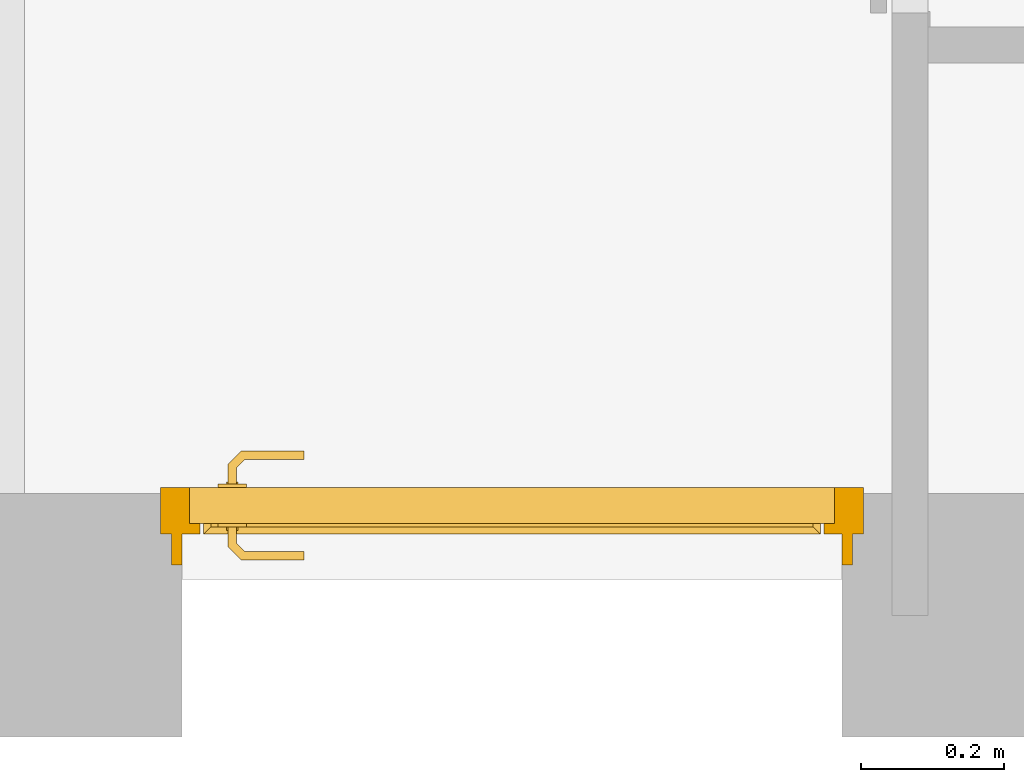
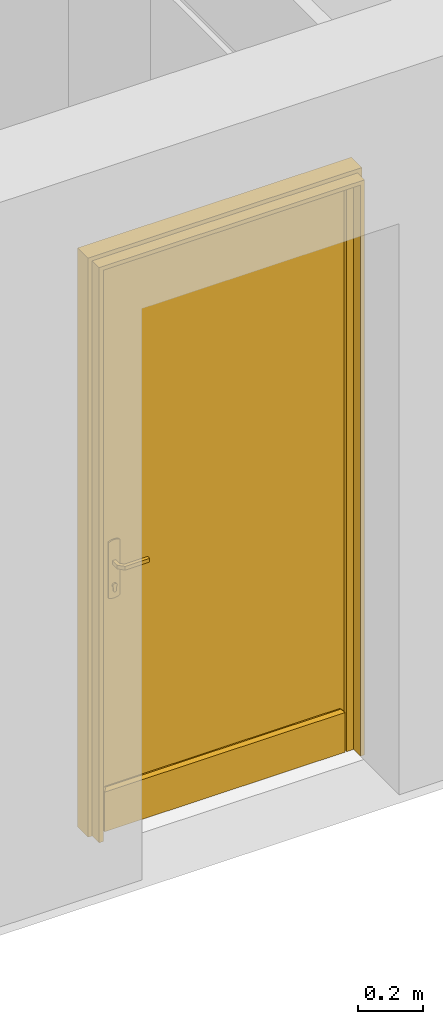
# One storey, part 5 of 13: 1 door.
"""IFC2X3 building model written with IfcOpenShell, lengths in millimetres."""

import ifcopenshell
import ifcopenshell.guid

model = None  # the IFC model being written
_history = None  # IfcOwnerHistory: only IFC2X3 demands one
_inside = {}  # id of a spatial element -> (the spatial element, [elements in it])
_under = {}  # id of a project, library or spatial element -> (it, [spatial elements below it])
_declared = {}  # id of a project -> (the project, [libraries it declares])
_typed = {}  # id of a type object -> (the type object, [elements of that type])
_made_of = {}  # id of a material, layer set ... -> (it, [elements and type objects made of it])


def new_model(schema):
    """Start an empty IFC model of exactly this schema.

    Asked for "IFC4X3", IfcOpenShell would pick the latest addendum, in which some entities
    have other attributes; the version numbers below select the first issue.
    IFC2X3 requires an IfcOwnerHistory on every rooted entity: one is made here for all.
    """
    global model, _history
    if schema == "IFC4X3":
        model = ifcopenshell.file(schema_version=(4, 3, 0, 0))
    else:
        model = ifcopenshell.file(schema=schema)
    _inside.clear()
    _under.clear()
    _declared.clear()
    _typed.clear()
    _made_of.clear()
    _history = None
    if model.schema == "IFC2X3":
        org = make("IfcOrganization", Name="unknown")
        user = make(
            "IfcPersonAndOrganization",
            ThePerson=make("IfcPerson", FamilyName="unknown"),
            TheOrganization=org,
        )
        app = make(
            "IfcApplication",
            ApplicationDeveloper=org,
            Version="unknown",
            ApplicationFullName="unknown",
            ApplicationIdentifier="unknown",
        )
        _history = make(
            "IfcOwnerHistory",
            OwningUser=user,
            OwningApplication=app,
            ChangeAction="ADDED",
            CreationDate=0,
        )
    return model


def make(cls, **values):
    """One entity of the class cls with the attributes given. An attribute that is None is left unset."""
    return model.create_entity(
        cls, **{name: value for name, value in values.items() if value is not None}
    )


def entity(cls, *values):
    """Any entity or typed value of the class cls, its attributes in the order of the schema. None: left unset."""
    e = model.create_entity(cls)
    for i, value in enumerate(values):
        if value is not None:
            e[i] = value
    return e


def rooted(cls, **values):
    """An entity with a GlobalId (a new one), such as an element, a storey or a relation."""
    return make(cls, GlobalId=ifcopenshell.guid.new(), OwnerHistory=_history, **values)


def si_unit(unit_type, name, prefix=None):
    """IfcSIUnit, for example si_unit("LENGTHUNIT", "METRE", prefix="MILLI")."""
    return make("IfcSIUnit", UnitType=unit_type, Prefix=prefix, Name=name)


def converted_unit(unit_type, name, factor, base, dimensions=None, offset=None):
    """IfcConversionBasedUnit, such as the inch: factor (a typed value) times the base unit."""
    return make(
        "IfcConversionBasedUnit"
        if offset is None
        else "IfcConversionBasedUnitWithOffset",
        ConversionOffset=offset,
        Dimensions=None
        if dimensions is None
        else entity("IfcDimensionalExponents", *dimensions),
        UnitType=unit_type,
        Name=name,
        ConversionFactor=make(
            "IfcMeasureWithUnit", ValueComponent=factor, UnitComponent=base
        ),
    )


def assignment(units):
    """IfcUnitAssignment: the units of a project."""
    return None if units is None else make("IfcUnitAssignment", Units=units)


def point(xyz):
    """IfcCartesianPoint."""
    return None if xyz is None else make("IfcCartesianPoint", Coordinates=xyz)


def direction(xyz):
    """IfcDirection."""
    return None if xyz is None else make("IfcDirection", DirectionRatios=xyz)


def frame(location, z_axis=None, x_axis=None):
    """IfcAxis2Placement3D, a coordinate frame: its origin and axes. An axis left out is left unset."""
    return make(
        "IfcAxis2Placement3D",
        Location=point(location),
        Axis=direction(z_axis),
        RefDirection=direction(x_axis),
    )


def origin():
    """The frame at (0, 0, 0) with its axes left unset."""
    return frame((0.0, 0.0, 0.0))


def origin_with_axes():
    """The frame at (0, 0, 0) with the z axis (0, 0, 1) and the x axis (1, 0, 0) written out."""
    return frame((0.0, 0.0, 0.0), z_axis=(0.0, 0.0, 1.0), x_axis=(1.0, 0.0, 0.0))


def place(relative_to, where):
    """IfcLocalPlacement: puts the frame where relative to a parent placement (None: the world)."""
    return make(
        "IfcLocalPlacement", PlacementRelTo=relative_to, RelativePlacement=where
    )


def context(
    kind, dimensions, precision=None, world=None, true_north=None, identifier=None
):
    """IfcGeometricRepresentationContext, for example the 3D "Model" context."""
    return make(
        "IfcGeometricRepresentationContext",
        ContextIdentifier=identifier,
        ContextType=kind,
        CoordinateSpaceDimension=dimensions,
        Precision=precision,
        WorldCoordinateSystem=world,
        TrueNorth=true_north,
    )


def project(units=None, contexts=None):
    """IfcProject with its units and contexts."""
    return rooted(
        "IfcProject",
        Name="project",
        RepresentationContexts=contexts,
        UnitsInContext=assignment(units),
    )


def spatial(cls, under=None, at=None, **own):
    """A site, building, storey or space (cls), placed at a placement, below another one or the project."""
    s = rooted(cls, ObjectPlacement=at, **own)
    if under is not None:
        _under.setdefault(under.id(), (under, []))[1].append(s)
    return s


def faces_of(points, faces, orient=None, outer=None):
    """IfcFace entities. A face is a list of loops; a loop is a list of indices into points, from 0.

    orient and outer hold one flag for each loop. By default every Orientation is true, the
    first loop of a face is its IfcFaceOuterBound and the others are IfcFaceBound.
    """
    made = []
    for i, loops in enumerate(faces):
        bounds = []
        for j, loop in enumerate(loops):
            is_outer = j == 0 if outer is None else outer[i][j]
            bounds.append(
                make(
                    "IfcFaceOuterBound" if is_outer else "IfcFaceBound",
                    Bound=make("IfcPolyLoop", Polygon=[points[k] for k in loop]),
                    Orientation=True if orient is None else orient[i][j],
                )
            )
        made.append(make("IfcFace", Bounds=bounds))
    return made


def faceted_brep(points, faces, orient=None, outer=None, voids=None):
    """IfcFacetedBrep: a solid bounded by flat faces; with voids (closed shells), ...WithVoids."""
    shared = [point(p) for p in points]
    hull = make("IfcClosedShell", CfsFaces=faces_of(shared, faces, orient, outer))
    if voids is None:
        return make("IfcFacetedBrep", Outer=hull)
    return make(
        "IfcFacetedBrepWithVoids",
        Outer=hull,
        Voids=[
            make(cls, CfsFaces=faces_of(shared, fs, o, b)) for cls, fs, o, b in voids
        ],
    )


def shape(context_of_items, identifier, shape_type, items):
    """IfcShapeRepresentation: the items that make up one representation, for example the "Body"."""
    return make(
        "IfcShapeRepresentation",
        ContextOfItems=context_of_items,
        RepresentationIdentifier=identifier,
        RepresentationType=shape_type,
        Items=items,
    )


def made_of(thing, what):
    """Note that an element or type object is made of a material, layer set ...; save() writes the relation."""
    if what is not None:
        _made_of.setdefault(what.id(), (what, []))[1].append(thing)
    return thing


def element(
    cls,
    number,
    at=None,
    inside=None,
    cuts=None,
    type_object=None,
    material=None,
    context=None,
    identifier="Body",
    shape_type=None,
    held_by="IfcProductDefinitionShape",
    body=None,
    shapes=None,
    **own,
):
    """One element of the class cls, such as IfcWall. Its Tag is "e" and its number.

    at: its placement. inside: the storey or other place that contains it. cuts: it is an
    opening in that element (IfcRelVoidsElement). A single representation is given by context,
    identifier, shape_type and body (its items); several are given by shapes. held_by: the class
    of the entity that holds the representations. save() writes the other relations.
    """
    e = rooted(cls, Tag="e%d" % number, ObjectPlacement=at, **own)
    if body is not None:
        shapes = [shape(context, identifier, shape_type, body)]
    if shapes is not None:
        e.Representation = make(held_by, Representations=shapes)
    if inside is not None:
        _inside.setdefault(inside.id(), (inside, []))[1].append(e)
    if cuts is not None:
        rooted(
            "IfcRelVoidsElement", RelatingBuildingElement=cuts, RelatedOpeningElement=e
        )
    if type_object is not None:
        _typed.setdefault(type_object.id(), (type_object, []))[1].append(e)
    return made_of(e, material)


def aggregate(whole, parts):
    """IfcRelAggregates: a whole, such as a stair, and the parts it consists of."""
    return rooted("IfcRelAggregates", RelatingObject=whole, RelatedObjects=parts)


def save(model, path):
    """Write the relations noted so far, then the file.

    IfcRelAggregates (storeys below a building ...), IfcRelContainedInSpatialStructure (elements
    in a storey), IfcRelDefinesByType, IfcRelAssociatesMaterial and IfcRelDeclares: one each for
    every whole, place, type object, material and project.
    """
    for whole, parts in _under.values():
        aggregate(whole, parts)
    for where, things in _inside.values():
        rooted(
            "IfcRelContainedInSpatialStructure",
            RelatedElements=things,
            RelatingStructure=where,
        )
    for kind, things in _typed.values():
        rooted("IfcRelDefinesByType", RelatedObjects=things, RelatingType=kind)
    for what, things in _made_of.values():
        rooted("IfcRelAssociatesMaterial", RelatedObjects=things, RelatingMaterial=what)
    for by, libraries in _declared.values():
        rooted("IfcRelDeclares", RelatingContext=by, RelatedDefinitions=libraries)
    model.write(path)


model = new_model("IFC2X3")

# Units and contexts
model_context = context("Model", 3, precision=1e-05, world=origin(), true_north=direction((0.0, 1.0, 0.0)))
ifc_project = project(units=[si_unit("LENGTHUNIT", "METRE", prefix="MILLI"), si_unit("AREAUNIT", "SQUARE_METRE"), si_unit("VOLUMEUNIT", "CUBIC_METRE"), converted_unit("PLANEANGLEUNIT", "DEGREE", entity("IfcPlaneAngleMeasure", 0.01745), si_unit("PLANEANGLEUNIT", "RADIAN"), dimensions=[0, 0, 0, 0, 0, 0, 0]), si_unit("SOLIDANGLEUNIT", "STERADIAN"), si_unit("MASSUNIT", "GRAM"), si_unit("TIMEUNIT", "SECOND"), si_unit("THERMODYNAMICTEMPERATUREUNIT", "DEGREE_CELSIUS"), si_unit("LUMINOUSINTENSITYUNIT", "LUMEN")], contexts=[model_context])

# Site, building, storey
placement = place(None, origin_with_axes())
site_placement = place(placement, frame((11636.08881703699, 2815.7442167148, 4.768371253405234e-06), z_axis=(0.0, 0.0, 1.0), x_axis=(1.0, 0.0, 0.0)))
site = spatial("IfcSite", under=ifc_project, at=site_placement, Name="Surface", CompositionType="ELEMENT")
building_placement = place(placement, origin_with_axes())
building = spatial("IfcBuilding", under=site, at=building_placement, Name="Default Building", CompositionType="ELEMENT")
storey_placement = place(building_placement, origin_with_axes())
storey = spatial("IfcBuildingStorey", under=building, at=storey_placement, Name="Rez de chaussée", CompositionType="ELEMENT", Elevation=0.0)

# Door
door_placement = place(storey_placement, frame((11636.08881703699, 2815.7442167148, 4.768371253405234e-06), z_axis=(0.0, 0.0, 1.0), x_axis=(1.0, 0.0, 0.0)))
element("IfcDoor", 1, at=door_placement, inside=storey, Name="IfcDoor - Porte d'entrée:PP Lisse (0.90m x 2.15m)", context=model_context, shape_type="Brep", body=[
    faceted_brep([(-9891.088812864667, -2575.744218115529, 2175.000042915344), (-8941.088824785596, -2532.744216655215, 2175.000042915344), (-9891.088812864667, -2532.744216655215, 2175.000042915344), (-8941.088824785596, -2575.744218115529, 2175.000042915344), (-9876.088827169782, -2532.744216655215, 2160.000057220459), (-8956.088810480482, -2575.744218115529, 2160.000057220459), (-9876.088827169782, -2575.744218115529, 2160.000057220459), (-8956.088810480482, -2532.744216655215, 2160.000057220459), (-8941.088824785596, -2532.744216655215, -2.861022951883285e-05), (-8941.088824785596, -2575.744218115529, -2.861022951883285e-05), (-8956.088810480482, -2575.744218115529, -2.861022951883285e-05), (-8956.088810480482, -2532.744216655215, -2.861022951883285e-05), (-9891.088812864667, -2575.744218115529, -2.861022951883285e-05), (-9876.088827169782, -2575.744218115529, -2.861022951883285e-05), (-9891.088812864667, -2532.744216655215, -2.861022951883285e-05), (-9876.088827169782, -2532.744216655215, -2.861022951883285e-05), (-9906.088828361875, -2532.744216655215, 2190.000028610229), (-8926.088809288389, -2467.744215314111, 2190.000028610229), (-9906.088828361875, -2467.744215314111, 2190.000028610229), (-8926.088809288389, -2532.744216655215, 2190.000028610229), (-9866.088806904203, -2467.744215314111, 2149.999947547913), (-8966.088830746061, -2517.74421652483, 2149.999947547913), (-9866.088806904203, -2517.74421652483, 2149.999947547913), (-8966.088830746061, -2467.744215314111, 2149.999947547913), (-9851.088821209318, -2517.74421652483, 2134.999961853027), (-8981.088816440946, -2532.744216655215, 2134.999961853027), (-9851.088821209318, -2532.744216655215, 2134.999961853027), (-8981.088816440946, -2517.74421652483, 2134.999961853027), (-8966.088830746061, -2517.74421652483, -2.861022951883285e-05), (-8966.088830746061, -2467.744215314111, -2.861022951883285e-05), (-8981.088816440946, -2532.744216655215, -2.861022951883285e-05), (-8981.088816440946, -2517.74421652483, -2.861022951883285e-05), (-8926.088809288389, -2467.744215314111, -2.861022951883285e-05), (-8926.088809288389, -2532.744216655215, -2.861022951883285e-05), (-9906.088828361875, -2532.744216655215, -2.861022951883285e-05), (-9906.088828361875, -2467.744215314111, -2.861022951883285e-05), (-9866.088806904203, -2467.744215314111, -2.861022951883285e-05), (-9866.088806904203, -2517.74421652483, -2.861022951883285e-05), (-9851.088821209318, -2517.74421652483, -2.861022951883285e-05), (-9851.088821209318, -2532.744216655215, -2.861022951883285e-05), (-9836.088805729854, -2522.744217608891, 159.9999785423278), (-9846.088825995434, -2517.744216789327, 149.999988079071), (-9846.088825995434, -2532.744215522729, 149.999988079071), (-9836.088805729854, -2517.744216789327, 159.9999785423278), (-8996.088831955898, -2522.744217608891, 159.9999785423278), (-8986.088811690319, -2532.744215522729, 149.999988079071), (-8996.088831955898, -2517.744216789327, 159.9999785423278), (-8986.088811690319, -2517.744216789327, 149.999988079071), (-8986.088811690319, -2517.744216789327, -4.768371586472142e-05), (-8986.088811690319, -2532.744215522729, -4.768371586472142e-05), (-9846.088825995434, -2532.744215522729, -4.768371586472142e-05), (-9846.088825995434, -2517.744216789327, -4.768371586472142e-05), (-8966.088830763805, -2467.744217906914, 2150.000047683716), (-8966.088830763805, -2517.744216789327, -4.768371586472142e-05), (-8966.088830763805, -2467.744217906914, -4.768371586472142e-05), (-8966.088830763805, -2517.744216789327, 2150.000047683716), (-9866.088806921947, -2517.744216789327, -4.768371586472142e-05), (-9866.088806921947, -2467.744217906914, -4.768371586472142e-05), (-9866.088806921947, -2517.744216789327, 2150.000047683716), (-9866.088806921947, -2467.744217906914, 2150.000047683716), (-9811.08881698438, -2522.744216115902, 895.0000017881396), (-9811.08881698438, -2527.744216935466, 908.0464452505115), (-9811.08881698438, -2522.744216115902, 908.0464452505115), (-9811.08881698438, -2527.744216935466, 895.0000017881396), (-9810.91844828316, -2522.744216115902, 893.7059029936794), (-9810.91844828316, -2527.744216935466, 893.7059029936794), (-9810.418946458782, -2527.744216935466, 892.4999967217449), (-9810.418946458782, -2522.744216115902, 892.4999967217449), (-9809.62435321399, -2527.744216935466, 891.4644628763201), (-9808.588819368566, -2522.744216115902, 890.6698733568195), (-9808.588819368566, -2527.744216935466, 890.6698733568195), (-9809.62435321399, -2522.744216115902, 891.4644628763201), (-9807.382913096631, -2522.744216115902, 890.1703715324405), (-9807.382913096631, -2527.744216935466, 890.1703715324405), (-9806.088818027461, -2522.744216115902, 889.9999991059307), (-9806.088818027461, -2527.744216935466, 889.9999991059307), (-9804.794722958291, -2522.744216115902, 890.1703715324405), (-9804.794722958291, -2527.744216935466, 890.1703715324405), (-9803.588820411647, -2527.744216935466, 890.6698733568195), (-9803.588820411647, -2522.744216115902, 890.6698733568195), (-9802.553286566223, -2527.744216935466, 891.4644628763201), (-9801.758693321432, -2522.744216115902, 892.4999967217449), (-9801.758693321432, -2527.744216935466, 892.4999967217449), (-9802.553286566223, -2522.744216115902, 891.4644628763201), (-9801.259191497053, -2522.744216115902, 893.7059029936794), (-9801.259191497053, -2527.744216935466, 893.7059029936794), (-9801.088819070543, -2522.744216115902, 895.0000017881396), (-9801.088819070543, -2527.744216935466, 895.0000017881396), (-9801.088819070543, -2522.744216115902, 908.0464452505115), (-9801.088819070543, -2527.744216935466, 908.0464452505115), (-9799.653170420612, -2527.744216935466, 909.5393404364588), (-9799.653170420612, -2522.744216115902, 909.5393404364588), (-9798.170299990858, -2527.744216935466, 915.430320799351), (-9798.728057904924, -2522.744216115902, 917.4249976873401), (-9798.728057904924, -2527.744216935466, 917.4249976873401), (-9798.170299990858, -2522.744216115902, 915.430320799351), (-9798.143310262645, -2522.744216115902, 913.359305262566), (-9798.648895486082, -2527.744216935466, 911.3507702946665), (-9798.648895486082, -2522.744216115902, 911.3507702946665), (-9798.143310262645, -2527.744216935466, 913.359305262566), (-9799.779196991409, -2527.744216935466, 919.2096352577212), (-9799.779196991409, -2522.744216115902, 919.2096352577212), (-9801.253260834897, -2522.744216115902, 920.6646181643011), (-9803.051447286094, -2527.744216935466, 921.6924108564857), (-9801.253260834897, -2527.744216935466, 920.6646181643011), (-9803.051447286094, -2522.744216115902, 921.6924108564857), (-9805.053224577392, -2522.744216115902, 922.2241289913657), (-9805.053224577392, -2527.744216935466, 922.2241289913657), (-9807.124415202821, -2527.744216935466, 922.2241289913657), (-9807.124415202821, -2522.744216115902, 922.2241289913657), (-9809.12619249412, -2522.744216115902, 921.6924108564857), (-9809.12619249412, -2527.744216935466, 921.6924108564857), (-9813.44958187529, -2527.744216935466, 917.4249976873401), (-9814.007339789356, -2522.744216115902, 915.430320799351), (-9814.007339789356, -2527.744216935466, 915.430320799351), (-9813.44958187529, -2522.744216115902, 917.4249976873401), (-9810.924375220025, -2527.744216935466, 920.6646181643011), (-9812.398442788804, -2522.744216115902, 919.2096352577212), (-9812.398442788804, -2527.744216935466, 919.2096352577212), (-9810.924375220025, -2522.744216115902, 920.6646181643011), (-9814.034329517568, -2522.744216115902, 913.359305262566), (-9814.034329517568, -2527.744216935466, 913.359305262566), (-9813.528740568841, -2527.744216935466, 911.3507702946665), (-9812.524465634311, -2522.744216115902, 909.5393404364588), (-9812.524465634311, -2527.744216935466, 909.5393404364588), (-9813.528740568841, -2522.744216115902, 911.3507702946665), (-9811.08881698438, -2462.744217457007, 908.0464452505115), (-9812.524465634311, -2459.744216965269, 909.5393404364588), (-9811.08881698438, -2459.744216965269, 908.0464452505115), (-9812.524465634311, -2462.744217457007, 909.5393404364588), (-9814.007339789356, -2459.744216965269, 915.430320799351), (-9813.44958187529, -2462.744217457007, 917.4249976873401), (-9813.44958187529, -2459.744216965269, 917.4249976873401), (-9814.007339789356, -2462.744217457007, 915.430320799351), (-9813.528740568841, -2459.744216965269, 911.3507702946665), (-9814.034329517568, -2462.744217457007, 913.359305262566), (-9814.034329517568, -2459.744216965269, 913.359305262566), (-9813.528740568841, -2462.744217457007, 911.3507702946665), (-9812.398442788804, -2459.744216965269, 919.2096352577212), (-9812.398442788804, -2462.744217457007, 919.2096352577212), (-9810.924375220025, -2462.744217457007, 920.6646181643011), (-9809.12619249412, -2459.744216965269, 921.6924108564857), (-9810.924375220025, -2459.744216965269, 920.6646181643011), (-9809.12619249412, -2462.744217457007, 921.6924108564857), (-9807.124415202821, -2462.744217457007, 922.2241289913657), (-9807.124415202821, -2459.744216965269, 922.2241289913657), (-9805.053224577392, -2459.744216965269, 922.2241289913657), (-9805.053224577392, -2462.744217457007, 922.2241289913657), (-9803.051447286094, -2459.744216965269, 921.6924108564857), (-9803.051447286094, -2462.744217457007, 921.6924108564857), (-9798.170299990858, -2462.744217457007, 915.430320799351), (-9798.728057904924, -2459.744216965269, 917.4249976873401), (-9798.728057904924, -2462.744217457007, 917.4249976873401), (-9798.170299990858, -2459.744216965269, 915.430320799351), (-9801.253260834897, -2462.744217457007, 920.6646181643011), (-9799.779196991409, -2459.744216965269, 919.2096352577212), (-9801.253260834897, -2459.744216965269, 920.6646181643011), (-9799.779196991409, -2462.744217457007, 919.2096352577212), (-9798.143310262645, -2462.744217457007, 913.359305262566), (-9798.143310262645, -2459.744216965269, 913.359305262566), (-9799.653170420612, -2462.744217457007, 909.5393404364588), (-9798.648895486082, -2459.744216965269, 911.3507702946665), (-9798.648895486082, -2462.744217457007, 911.3507702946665), (-9799.653170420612, -2459.744216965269, 909.5393404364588), (-9801.088819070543, -2459.744216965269, 908.0464452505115), (-9801.088819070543, -2462.744217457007, 908.0464452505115), (-9801.088819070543, -2462.744217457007, 895.0000017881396), (-9801.088819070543, -2459.744216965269, 895.0000017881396), (-9801.259191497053, -2462.744217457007, 893.7059029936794), (-9801.259191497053, -2459.744216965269, 893.7059029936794), (-9801.758693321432, -2462.744217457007, 892.4999967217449), (-9801.758693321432, -2459.744216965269, 892.4999967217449), (-9803.588820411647, -2462.744217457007, 890.6698733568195), (-9802.553286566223, -2459.744216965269, 891.4644628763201), (-9802.553286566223, -2462.744217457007, 891.4644628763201), (-9803.588820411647, -2459.744216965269, 890.6698733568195), (-9804.794722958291, -2462.744217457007, 890.1703715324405), (-9804.794722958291, -2459.744216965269, 890.1703715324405), (-9806.088818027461, -2459.744216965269, 889.9999991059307), (-9806.088818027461, -2462.744217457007, 889.9999991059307), (-9807.382913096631, -2462.744217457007, 890.1703715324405), (-9807.382913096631, -2459.744216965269, 890.1703715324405), (-9808.588819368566, -2462.744217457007, 890.6698733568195), (-9808.588819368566, -2459.744216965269, 890.6698733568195), (-9809.62435321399, -2462.744217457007, 891.4644628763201), (-9810.418946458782, -2459.744216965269, 892.4999967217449), (-9809.62435321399, -2459.744216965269, 891.4644628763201), (-9810.418946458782, -2462.744217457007, 892.4999967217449), (-9810.91844828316, -2462.744217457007, 893.7059029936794), (-9810.91844828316, -2459.744216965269, 893.7059029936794), (-9811.08881698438, -2462.744217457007, 895.0000017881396), (-9811.08881698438, -2459.744216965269, 895.0000017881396), (-9790.249911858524, -2560.689402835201, 992.2195583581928), (-9748.146474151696, -2562.714701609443, 992.1213131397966), (-9791.927724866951, -2564.740000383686, 992.2195583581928), (-9753.643610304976, -2568.71470631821, 992.99999922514), (-9747.32329861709, -2556.714704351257, 992.99999922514), (-9706.043036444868, -2560.689402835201, 992.2195583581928), (-9706.043036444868, -2564.740000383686, 992.2195583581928), (-9706.043036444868, -2556.714704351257, 992.99999922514), (-9788.603536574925, -2556.714704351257, 992.99999922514), (-9793.57410015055, -2568.71470631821, 992.99999922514), (-9706.043036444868, -2568.71470631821, 992.99999922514), (-9793.57410015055, -2568.71470631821, 1007.000001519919), (-9706.043036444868, -2568.71470631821, 1007.000001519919), (-9706.043036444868, -2560.689402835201, 1007.780442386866), (-9748.146474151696, -2562.714701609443, 1007.878685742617), (-9706.043036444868, -2564.740000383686, 1007.780442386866), (-9747.323285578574, -2556.714704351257, 1007.000001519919), (-9790.249911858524, -2560.689402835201, 1007.780442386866), (-9791.927724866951, -2564.740000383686, 1007.780442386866), (-9753.643613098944, -2568.71470631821, 1007.000001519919), (-9706.043036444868, -2556.714704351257, 1007.000001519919), (-9788.603536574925, -2556.714704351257, 1007.000001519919), (-9804.063519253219, -2546.875795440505, 992.2195583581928), (-9800.088817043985, -2545.229422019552, 992.99999922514), (-9812.088819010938, -2550.199983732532, 992.99999922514), (-9808.114116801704, -2548.553610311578, 992.2195583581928), (-9812.088819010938, -2550.199983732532, 1007.000001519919), (-9808.114116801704, -2548.553610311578, 1007.780442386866), (-9800.088817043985, -2545.229422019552, 1007.000001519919), (-9804.063519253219, -2546.875795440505, 1007.780442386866), (-9804.063519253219, -2522.744216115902, 992.2195583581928), (-9800.088817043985, -2522.744216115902, 992.99999922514), (-9808.114116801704, -2522.744216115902, 992.2195583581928), (-9812.088819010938, -2522.744216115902, 992.99999922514), (-9812.088819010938, -2522.744216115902, 1007.000001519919), (-9808.114116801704, -2522.744216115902, 1007.780442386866), (-9804.063519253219, -2522.744216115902, 1007.780442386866), (-9800.088817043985, -2522.744216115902, 1007.000001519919), (-9706.070178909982, -2416.716052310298, 992.99999922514), (-9793.711608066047, -2416.716052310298, 1007.000001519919), (-9706.070178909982, -2416.716052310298, 1007.000001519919), (-9753.781096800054, -2416.716052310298, 992.99999922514), (-9793.711608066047, -2416.716052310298, 992.99999922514), (-9706.070178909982, -2424.741355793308, 992.2195583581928), (-9748.228799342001, -2422.716057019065, 992.1213131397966), (-9706.070178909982, -2420.690758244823, 992.2195583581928), (-9747.405612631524, -2428.716054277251, 992.99999922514), (-9790.387421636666, -2424.741355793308, 992.2195583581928), (-9792.065232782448, -2420.690758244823, 992.2195583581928), (-9706.070178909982, -2428.716054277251, 992.99999922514), (-9788.741046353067, -2428.716054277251, 992.99999922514), (-9706.070178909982, -2428.716054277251, 1007.000001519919), (-9747.405612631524, -2428.716054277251, 1007.000001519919), (-9788.741046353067, -2428.716054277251, 1007.000001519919), (-9790.387421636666, -2424.741355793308, 1007.780442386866), (-9748.228799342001, -2422.716057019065, 1007.878685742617), (-9792.065232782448, -2420.690758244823, 1007.780442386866), (-9753.781121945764, -2416.716052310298, 1007.000001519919), (-9706.070178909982, -2424.741355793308, 1007.780442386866), (-9706.070178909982, -2420.690758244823, 1007.780442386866), (-9812.088819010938, -2435.093266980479, 992.99999922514), (-9812.088819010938, -2435.093266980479, 1007.000001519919), (-9808.114116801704, -2436.739640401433, 992.2195583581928), (-9800.088817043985, -2440.06382869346, 992.99999922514), (-9804.063519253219, -2438.417455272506, 992.2195583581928), (-9800.088817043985, -2440.06382869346, 1007.000001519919), (-9804.063519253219, -2438.417455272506, 1007.780442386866), (-9808.114116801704, -2436.739640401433, 1007.780442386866), (-9812.088819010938, -2462.744217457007, 992.99999922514), (-9812.088819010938, -2462.744217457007, 1007.000001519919), (-9808.114116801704, -2462.744217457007, 992.2195583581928), (-9804.063519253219, -2462.744217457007, 992.2195583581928), (-9800.088817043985, -2462.744217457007, 992.99999922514), (-9800.088817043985, -2462.744217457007, 1007.000001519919), (-9804.063519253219, -2462.744217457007, 1007.780442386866), (-9808.114116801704, -2462.744217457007, 1007.780442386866), (-9786.088818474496, -2522.744216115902, 870.0000032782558), (-9786.088818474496, -2517.744217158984, 1079.999996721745), (-9786.088818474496, -2522.744216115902, 1079.999996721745), (-9786.088818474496, -2517.744217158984, 870.0000032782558), (-9795.736057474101, -2517.744217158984, 866.0039812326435), (-9795.736057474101, -2522.744216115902, 866.0039812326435), (-9806.088818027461, -2522.744216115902, 864.6410167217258), (-9806.088818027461, -2517.744217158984, 864.6410167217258), (-9816.441582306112, -2522.744216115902, 866.0039812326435), (-9816.441582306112, -2517.744217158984, 866.0039812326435), (-9826.088817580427, -2522.744216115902, 870.0000032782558), (-9826.088817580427, -2517.744217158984, 870.0000032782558), (-9826.088817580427, -2522.744216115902, 1079.999996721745), (-9826.088817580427, -2517.744217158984, 1079.999996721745), (-9816.441582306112, -2517.744217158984, 1083.996018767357), (-9816.441582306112, -2522.744216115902, 1083.996018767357), (-9806.088818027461, -2522.744216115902, 1085.358983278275), (-9806.088818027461, -2517.744217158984, 1085.358983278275), (-9795.736057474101, -2522.744216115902, 1083.996018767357), (-9795.736057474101, -2517.744217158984, 1083.996018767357), (-9826.088817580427, -2467.744216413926, 1079.999996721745), (-9826.088817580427, -2462.744217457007, 870.0000032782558), (-9826.088817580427, -2467.744216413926, 870.0000032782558), (-9826.088817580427, -2462.744217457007, 1079.999996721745), (-9816.441582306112, -2462.744217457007, 1083.996018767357), (-9816.441582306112, -2467.744216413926, 1083.996018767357), (-9806.088818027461, -2467.744216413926, 1085.358983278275), (-9806.088818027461, -2462.744217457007, 1085.358983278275), (-9795.736057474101, -2467.744216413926, 1083.996018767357), (-9795.736057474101, -2462.744217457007, 1083.996018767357), (-9786.088818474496, -2467.744216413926, 1079.999996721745), (-9786.088818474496, -2462.744217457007, 1079.999996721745), (-9786.088818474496, -2467.744216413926, 870.0000032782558), (-9786.088818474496, -2462.744217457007, 870.0000032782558), (-9795.736057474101, -2462.744217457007, 866.0039812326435), (-9795.736057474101, -2467.744216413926, 866.0039812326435), (-9806.088818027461, -2467.744216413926, 864.6410167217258), (-9806.088818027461, -2462.744217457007, 864.6410167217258), (-9816.441582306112, -2467.744216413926, 866.0039812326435), (-9816.441582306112, -2462.744217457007, 866.0039812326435)], [[[0, 1, 2]], [[0, 3, 1]], [[4, 5, 6]], [[4, 7, 5]], [[3, 8, 1]], [[3, 9, 8]], [[10, 8, 9]], [[10, 11, 8]], [[7, 10, 5]], [[7, 11, 10]], [[0, 6, 3]], [[12, 6, 0]], [[6, 12, 13]], [[5, 3, 6]], [[10, 3, 5]], [[3, 10, 9]], [[12, 2, 14]], [[12, 0, 2]], [[1, 7, 2]], [[8, 7, 1]], [[7, 8, 11]], [[4, 2, 7]], [[15, 2, 4]], [[2, 15, 14]], [[15, 6, 13]], [[15, 4, 6]], [[13, 14, 15]], [[13, 12, 14]], [[16, 17, 18]], [[16, 19, 17]], [[20, 21, 22]], [[20, 23, 21]], [[24, 25, 26]], [[24, 27, 25]], [[23, 28, 21]], [[23, 29, 28]], [[27, 30, 25]], [[27, 31, 30]], [[29, 32, 28]], [[28, 30, 31]], [[28, 33, 30]], [[33, 28, 32]], [[19, 32, 17]], [[19, 33, 32]], [[34, 18, 35]], [[34, 16, 18]], [[17, 23, 18]], [[32, 23, 17]], [[23, 32, 29]], [[20, 18, 23]], [[36, 18, 20]], [[18, 36, 35]], [[36, 22, 37]], [[36, 20, 22]], [[21, 27, 22]], [[28, 27, 21]], [[27, 28, 31]], [[24, 22, 27]], [[38, 22, 24]], [[22, 38, 37]], [[38, 26, 39]], [[38, 24, 26]], [[16, 26, 19]], [[34, 26, 16]], [[26, 34, 39]], [[25, 19, 26]], [[30, 19, 25]], [[19, 30, 33]], [[38, 39, 37]], [[37, 35, 36]], [[37, 34, 35]], [[34, 37, 39]], [[40, 41, 42]], [[40, 43, 41]], [[44, 42, 45]], [[44, 40, 42]], [[45, 46, 44]], [[45, 47, 46]], [[43, 44, 46]], [[43, 40, 44]], [[48, 45, 49]], [[48, 47, 45]], [[48, 50, 51]], [[48, 49, 50]], [[50, 41, 51]], [[50, 42, 41]], [[49, 42, 50]], [[49, 45, 42]], [[47, 43, 46]], [[47, 41, 43]], [[48, 41, 47]], [[41, 48, 51]], [[52, 53, 54]], [[52, 55, 53]], [[54, 56, 57]], [[54, 53, 56]], [[57, 58, 59]], [[57, 56, 58]], [[59, 55, 52]], [[59, 58, 55]], [[55, 56, 53]], [[55, 58, 56]], [[52, 57, 59]], [[52, 54, 57]], [[60, 61, 62]], [[60, 63, 61]], [[64, 63, 60]], [[64, 65, 63]], [[64, 66, 65]], [[64, 67, 66]], [[68, 69, 70]], [[68, 71, 69]], [[67, 68, 66]], [[67, 71, 68]], [[72, 70, 69]], [[72, 73, 70]], [[74, 73, 72]], [[74, 75, 73]], [[76, 75, 74]], [[76, 77, 75]], [[76, 78, 77]], [[76, 79, 78]], [[80, 81, 82]], [[80, 83, 81]], [[79, 80, 78]], [[79, 83, 80]], [[84, 82, 81]], [[84, 85, 82]], [[86, 85, 84]], [[86, 87, 85]], [[88, 87, 86]], [[88, 89, 87]], [[88, 90, 89]], [[88, 91, 90]], [[92, 93, 94]], [[92, 95, 93]], [[96, 97, 98]], [[96, 99, 97]], [[91, 97, 90]], [[91, 98, 97]], [[96, 92, 99]], [[96, 95, 92]], [[93, 100, 94]], [[93, 101, 100]], [[102, 103, 104]], [[102, 105, 103]], [[102, 100, 101]], [[102, 104, 100]], [[106, 103, 105]], [[106, 107, 103]], [[108, 106, 109]], [[108, 107, 106]], [[110, 108, 109]], [[110, 111, 108]], [[112, 113, 114]], [[112, 115, 113]], [[116, 117, 118]], [[116, 119, 117]], [[110, 116, 111]], [[110, 119, 116]], [[117, 112, 118]], [[117, 115, 112]], [[114, 120, 121]], [[114, 113, 120]], [[122, 123, 124]], [[122, 125, 123]], [[125, 121, 120]], [[125, 122, 121]], [[62, 124, 123]], [[62, 61, 124]], [[95, 101, 93]], [[95, 102, 101]], [[96, 102, 95]], [[96, 105, 102]], [[98, 105, 96]], [[98, 106, 105]], [[91, 106, 98]], [[91, 109, 106]], [[88, 109, 91]], [[88, 110, 109]], [[88, 119, 110]], [[88, 117, 119]], [[88, 115, 117]], [[86, 115, 88]], [[84, 115, 86]], [[84, 113, 115]], [[81, 113, 84]], [[81, 120, 113]], [[81, 62, 120]], [[83, 62, 81]], [[79, 62, 83]], [[76, 62, 79]], [[74, 62, 76]], [[72, 62, 74]], [[69, 62, 72]], [[69, 60, 62]], [[71, 60, 69]], [[71, 64, 60]], [[64, 71, 67]], [[62, 125, 120]], [[125, 62, 123]], [[90, 97, 89]], [[85, 80, 82]], [[85, 78, 80]], [[87, 78, 85]], [[87, 77, 78]], [[87, 75, 77]], [[87, 73, 75]], [[87, 70, 73]], [[87, 68, 70]], [[87, 66, 68]], [[87, 65, 66]], [[87, 63, 65]], [[89, 63, 87]], [[97, 63, 89]], [[99, 63, 97]], [[92, 63, 99]], [[94, 63, 92]], [[100, 63, 94]], [[104, 63, 100]], [[104, 61, 63]], [[103, 61, 104]], [[103, 124, 61]], [[107, 124, 103]], [[107, 122, 124]], [[108, 122, 107]], [[108, 121, 122]], [[111, 121, 108]], [[111, 114, 121]], [[116, 114, 111]], [[116, 112, 114]], [[112, 116, 118]], [[126, 127, 128]], [[126, 129, 127]], [[130, 131, 132]], [[130, 133, 131]], [[134, 135, 136]], [[134, 137, 135]], [[129, 134, 127]], [[129, 137, 134]], [[135, 130, 136]], [[135, 133, 130]], [[131, 138, 132]], [[131, 139, 138]], [[140, 141, 142]], [[140, 143, 141]], [[139, 142, 138]], [[139, 140, 142]], [[144, 141, 143]], [[144, 145, 141]], [[146, 144, 147]], [[146, 145, 144]], [[147, 148, 146]], [[147, 149, 148]], [[150, 151, 152]], [[150, 153, 151]], [[154, 155, 156]], [[154, 157, 155]], [[149, 156, 148]], [[149, 154, 156]], [[157, 151, 155]], [[157, 152, 151]], [[153, 158, 159]], [[153, 150, 158]], [[160, 161, 162]], [[160, 163, 161]], [[162, 159, 158]], [[162, 161, 159]], [[160, 164, 163]], [[160, 165, 164]], [[166, 164, 165]], [[166, 167, 164]], [[168, 167, 166]], [[168, 169, 167]], [[170, 169, 168]], [[170, 171, 169]], [[172, 173, 174]], [[172, 175, 173]], [[170, 173, 171]], [[170, 174, 173]], [[176, 175, 172]], [[176, 177, 175]], [[176, 178, 177]], [[176, 179, 178]], [[180, 178, 179]], [[180, 181, 178]], [[181, 182, 183]], [[181, 180, 182]], [[184, 185, 186]], [[184, 187, 185]], [[182, 186, 183]], [[182, 184, 186]], [[188, 185, 187]], [[188, 189, 185]], [[190, 189, 188]], [[190, 191, 189]], [[126, 191, 190]], [[126, 128, 191]], [[160, 162, 165]], [[168, 174, 170]], [[168, 172, 174]], [[166, 172, 168]], [[166, 176, 172]], [[166, 179, 176]], [[166, 180, 179]], [[166, 182, 180]], [[166, 184, 182]], [[166, 187, 184]], [[166, 188, 187]], [[166, 190, 188]], [[165, 190, 166]], [[162, 190, 165]], [[158, 190, 162]], [[150, 190, 158]], [[152, 190, 150]], [[157, 190, 152]], [[154, 190, 157]], [[154, 126, 190]], [[149, 126, 154]], [[149, 129, 126]], [[147, 129, 149]], [[147, 137, 129]], [[144, 137, 147]], [[144, 135, 137]], [[143, 135, 144]], [[143, 133, 135]], [[140, 133, 143]], [[140, 131, 133]], [[131, 140, 139]], [[153, 155, 151]], [[153, 156, 155]], [[159, 156, 153]], [[159, 148, 156]], [[161, 148, 159]], [[161, 146, 148]], [[163, 146, 161]], [[163, 145, 146]], [[164, 145, 163]], [[164, 141, 145]], [[164, 142, 141]], [[164, 138, 142]], [[164, 132, 138]], [[167, 132, 164]], [[169, 132, 167]], [[169, 130, 132]], [[171, 130, 169]], [[171, 136, 130]], [[171, 128, 136]], [[173, 128, 171]], [[175, 128, 173]], [[177, 128, 175]], [[178, 128, 177]], [[181, 128, 178]], [[183, 128, 181]], [[183, 191, 128]], [[186, 191, 183]], [[186, 189, 191]], [[189, 186, 185]], [[128, 134, 136]], [[134, 128, 127]], [[192, 193, 194]], [[193, 195, 194]], [[193, 196, 197]], [[193, 197, 198]], [[199, 197, 196]], [[196, 192, 200]], [[192, 196, 193]], [[195, 201, 194]], [[195, 198, 202]], [[193, 198, 195]], [[195, 203, 201]], [[202, 203, 195]], [[204, 203, 202]], [[205, 206, 207]], [[206, 208, 209]], [[206, 209, 210]], [[206, 210, 211]], [[211, 210, 203]], [[207, 211, 204]], [[205, 212, 208]], [[209, 208, 213]], [[207, 206, 211]], [[206, 205, 208]], [[212, 200, 213]], [[212, 196, 200]], [[196, 212, 199]], [[198, 204, 202]], [[198, 207, 204]], [[197, 207, 198]], [[197, 205, 207]], [[197, 212, 205]], [[212, 197, 199]], [[214, 200, 192]], [[214, 215, 200]], [[216, 194, 201]], [[216, 217, 194]], [[201, 218, 216]], [[201, 203, 218]], [[218, 210, 219]], [[218, 203, 210]], [[220, 209, 213]], [[220, 221, 209]], [[213, 215, 220]], [[213, 200, 215]], [[222, 215, 214]], [[222, 223, 215]], [[194, 214, 192]], [[217, 214, 194]], [[217, 222, 214]], [[222, 217, 224]], [[225, 217, 216]], [[225, 224, 217]], [[218, 225, 216]], [[218, 226, 225]], [[226, 219, 227]], [[226, 218, 219]], [[219, 221, 227]], [[210, 221, 219]], [[221, 210, 209]], [[227, 221, 228]], [[228, 220, 229]], [[228, 221, 220]], [[220, 223, 229]], [[220, 215, 223]], [[223, 228, 229]], [[222, 228, 223]], [[222, 227, 228]], [[224, 227, 222]], [[224, 226, 227]], [[226, 224, 225]], [[230, 231, 232]], [[233, 231, 230]], [[231, 233, 234]], [[235, 236, 237]], [[236, 238, 239]], [[236, 239, 240]], [[236, 240, 233]], [[233, 240, 234]], [[237, 233, 230]], [[235, 241, 238]], [[239, 238, 242]], [[237, 236, 233]], [[236, 235, 238]], [[243, 242, 241]], [[244, 242, 243]], [[242, 244, 245]], [[246, 247, 248]], [[247, 249, 248]], [[247, 244, 250]], [[247, 250, 251]], [[243, 250, 244]], [[244, 246, 245]], [[246, 244, 247]], [[249, 231, 248]], [[249, 251, 232]], [[247, 251, 249]], [[241, 250, 243]], [[235, 250, 241]], [[235, 251, 250]], [[237, 251, 235]], [[237, 232, 251]], [[232, 237, 230]], [[231, 252, 253]], [[231, 234, 252]], [[254, 234, 240]], [[254, 252, 234]], [[255, 239, 242]], [[255, 256, 239]], [[242, 257, 255]], [[242, 245, 257]], [[258, 245, 246]], [[258, 257, 245]], [[253, 248, 231]], [[253, 259, 248]], [[253, 260, 261]], [[253, 252, 260]], [[260, 254, 262]], [[260, 252, 254]], [[254, 256, 262]], [[240, 256, 254]], [[256, 240, 239]], [[262, 256, 263]], [[263, 255, 264]], [[263, 256, 255]], [[255, 265, 264]], [[255, 257, 265]], [[266, 257, 258]], [[266, 265, 257]], [[248, 258, 246]], [[259, 258, 248]], [[259, 266, 258]], [[266, 259, 267]], [[261, 259, 253]], [[261, 267, 259]], [[262, 261, 260]], [[262, 267, 261]], [[263, 267, 262]], [[263, 266, 267]], [[263, 265, 266]], [[265, 263, 264]], [[268, 269, 270]], [[268, 271, 269]], [[272, 268, 273]], [[272, 271, 268]], [[272, 274, 275]], [[272, 273, 274]], [[275, 276, 277]], [[275, 274, 276]], [[277, 278, 279]], [[277, 276, 278]], [[280, 279, 278]], [[280, 281, 279]], [[282, 280, 283]], [[282, 281, 280]], [[282, 284, 285]], [[282, 283, 284]], [[285, 286, 287]], [[285, 284, 286]], [[287, 270, 269]], [[287, 286, 270]], [[273, 276, 274]], [[268, 276, 273]], [[268, 278, 276]], [[268, 280, 278]], [[270, 280, 268]], [[270, 283, 280]], [[286, 283, 270]], [[283, 286, 284]], [[285, 281, 282]], [[287, 281, 285]], [[269, 281, 287]], [[269, 279, 281]], [[269, 277, 279]], [[269, 275, 277]], [[269, 272, 275]], [[272, 269, 271]], [[288, 289, 290]], [[288, 291, 289]], [[292, 288, 293]], [[292, 291, 288]], [[292, 294, 295]], [[292, 293, 294]], [[295, 296, 297]], [[295, 294, 296]], [[297, 298, 299]], [[297, 296, 298]], [[300, 299, 298]], [[300, 301, 299]], [[302, 300, 303]], [[302, 301, 300]], [[302, 304, 305]], [[302, 303, 304]], [[305, 306, 307]], [[305, 304, 306]], [[307, 290, 289]], [[307, 306, 290]], [[304, 290, 306]], [[303, 290, 304]], [[300, 290, 303]], [[300, 288, 290]], [[300, 293, 288]], [[300, 294, 293]], [[300, 296, 294]], [[296, 300, 298]], [[295, 291, 292]], [[297, 291, 295]], [[299, 291, 297]], [[299, 289, 291]], [[299, 307, 289]], [[299, 305, 307]], [[299, 302, 305]], [[302, 299, 301]]]),
])

save(model, "model.ifc")
